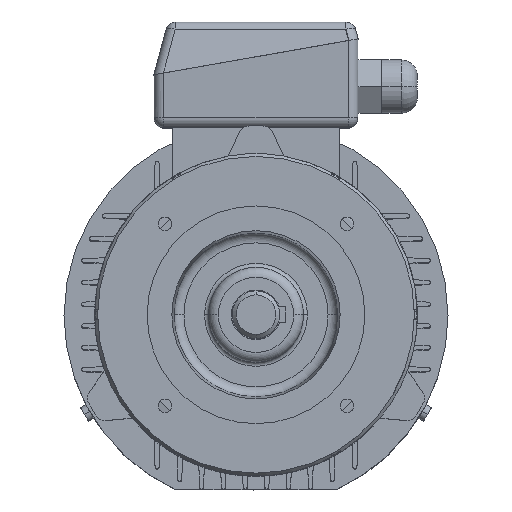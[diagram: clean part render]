
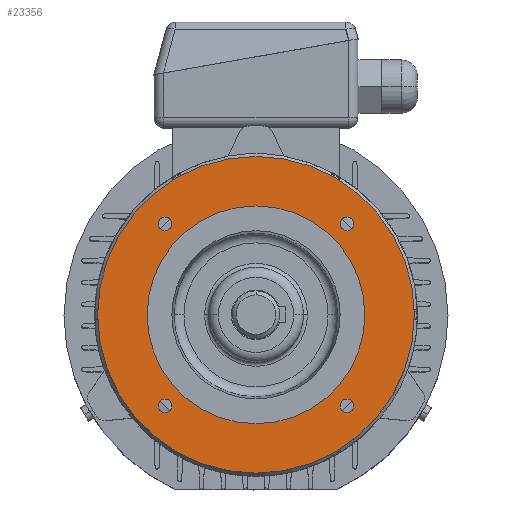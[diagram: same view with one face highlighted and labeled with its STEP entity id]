
A CAD part, top view. The second image highlights one B-rep face of the part: STEP entity #23356.
In plain terms, the highlighted planar face has unit normal (0, 0, 1).
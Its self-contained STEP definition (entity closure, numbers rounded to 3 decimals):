
#16417 = EDGE_CURVE ( 'NONE', #7432, #12865, #10684, .T. ) ;
#16656 = EDGE_CURVE ( 'NONE', #16343, #13916, #10831, .T. ) ;
#16678 = FACE_BOUND ( 'NONE', #23046, .T. ) ;
#16679 = FACE_OUTER_BOUND ( 'NONE', #20979, .T. ) ;
#16680 = FACE_BOUND ( 'NONE', #18276, .T. ) ;
#16681 = FACE_BOUND ( 'NONE', #3656, .T. ) ;
#16682 = FACE_BOUND ( 'NONE', #1614, .T. ) ;
#16683 = FACE_BOUND ( 'NONE', #24841, .T. ) ;
#16684 = PLANE ( 'NONE',  #16685 ) ;
#16685 = AXIS2_PLACEMENT_3D ( 'NONE', #16686, #16687, #16688 ) ;
#16686 = CARTESIAN_POINT ( 'NONE',  ( -80., 0., 40. ) ) ;
#16687 = DIRECTION ( 'NONE',  ( 0., 0., 1. ) ) ;
#16688 = DIRECTION ( 'NONE',  ( 1., 0., 0. ) ) ;
#335 = VERTEX_POINT ( 'NONE', #17013 ) ;
#503 = EDGE_CURVE ( 'NONE', #5489, #13639, #17511, .T. ) ;
#17013 = CARTESIAN_POINT ( 'NONE',  ( -49.362, 45.962, 40. ) ) ;
#658 = CARTESIAN_POINT ( 'NONE',  ( -55., 0., 40. ) ) ;
#725 = CIRCLE ( 'NONE', #726, 55. ) ;
#726 = AXIS2_PLACEMENT_3D ( 'NONE', #727, #728, #729 ) ;
#727 = CARTESIAN_POINT ( 'NONE',  ( 0., 0., 40. ) ) ;
#728 = DIRECTION ( 'NONE',  ( 0., 0., -1. ) ) ;
#729 = DIRECTION ( 'NONE',  ( -1., 0., 0. ) ) ;
#17192 = ORIENTED_EDGE ( 'NONE', *, *, #16417, .F. ) ;
#818 = CIRCLE ( 'NONE', #819, 3.4 ) ;
#819 = AXIS2_PLACEMENT_3D ( 'NONE', #820, #826, #827 ) ;
#820 = CARTESIAN_POINT ( 'NONE',  ( 45.962, 45.962, 40. ) ) ;
#826 = DIRECTION ( 'NONE',  ( 0., 0., 1. ) ) ;
#827 = DIRECTION ( 'NONE',  ( 1., 0., 0. ) ) ;
#17218 = CIRCLE ( 'NONE', #17219, 3.4 ) ;
#17219 = AXIS2_PLACEMENT_3D ( 'NONE', #17220, #17221, #17222 ) ;
#17220 = CARTESIAN_POINT ( 'NONE',  ( -45.962, 45.962, 40. ) ) ;
#17221 = DIRECTION ( 'NONE',  ( 0., 0., 1. ) ) ;
#17222 = DIRECTION ( 'NONE',  ( 1., 0., 0. ) ) ;
#964 = ORIENTED_EDGE ( 'NONE', *, *, #503, .F. ) ;
#17511 = CIRCLE ( 'NONE', #17512, 3.4 ) ;
#17512 = AXIS2_PLACEMENT_3D ( 'NONE', #17513, #17514, #17515 ) ;
#17513 = CARTESIAN_POINT ( 'NONE',  ( 45.962, 45.962, 40. ) ) ;
#17514 = DIRECTION ( 'NONE',  ( 0., 0., 1. ) ) ;
#17515 = DIRECTION ( 'NONE',  ( 1., 0., 0. ) ) ;
#1243 = CARTESIAN_POINT ( 'NONE',  ( 42.562, -45.962, 40. ) ) ;
#1614 = EDGE_LOOP ( 'NONE', ( #964, #25137 ) ) ;
#18233 = VERTEX_POINT ( 'NONE', #11852 ) ;
#18276 = EDGE_LOOP ( 'NONE', ( #17192, #3872 ) ) ;
#1929 = ORIENTED_EDGE ( 'NONE', *, *, #21742, .F. ) ;
#1961 = CARTESIAN_POINT ( 'NONE',  ( -42.562, -45.962, 40. ) ) ;
#2005 = CIRCLE ( 'NONE', #2006, 3.4 ) ;
#2006 = AXIS2_PLACEMENT_3D ( 'NONE', #2007, #2008, #2015 ) ;
#2007 = CARTESIAN_POINT ( 'NONE',  ( -45.962, -45.962, 40. ) ) ;
#2008 = DIRECTION ( 'NONE',  ( 0., 0., 1. ) ) ;
#2015 = DIRECTION ( 'NONE',  ( 1., 0., 0. ) ) ;
#18787 = ORIENTED_EDGE ( 'NONE', *, *, #11641, .F. ) ;
#2564 = EDGE_CURVE ( 'NONE', #18233, #6863, #21205, .T. ) ;
#3023 = ORIENTED_EDGE ( 'NONE', *, *, #2564, .F. ) ;
#19892 = ORIENTED_EDGE ( 'NONE', *, *, #16656, .F. ) ;
#3656 = EDGE_LOOP ( 'NONE', ( #3023, #1929 ) ) ;
#3872 = ORIENTED_EDGE ( 'NONE', *, *, #7500, .F. ) ;
#20979 = EDGE_LOOP ( 'NONE', ( #19892, #18787 ) ) ;
#21205 = CIRCLE ( 'NONE', #21206, 3.4 ) ;
#21206 = AXIS2_PLACEMENT_3D ( 'NONE', #21207, #21208, #21209 ) ;
#21207 = CARTESIAN_POINT ( 'NONE',  ( 45.962, -45.962, 40. ) ) ;
#21208 = DIRECTION ( 'NONE',  ( 0., 0., 1. ) ) ;
#21209 = DIRECTION ( 'NONE',  ( 1., 0., 0. ) ) ;
#21292 = EDGE_CURVE ( 'NONE', #16115, #6316, #13818, .T. ) ;
#21741 = ORIENTED_EDGE ( 'NONE', *, *, #21292, .T. ) ;
#21742 = EDGE_CURVE ( 'NONE', #6863, #18233, #14384, .T. ) ;
#5489 = VERTEX_POINT ( 'NONE', #24850 ) ;
#21880 = EDGE_CURVE ( 'NONE', #335, #15553, #14737, .T. ) ;
#22408 = ORIENTED_EDGE ( 'NONE', *, *, #6385, .T. ) ;
#6169 = CIRCLE ( 'NONE', #6170, 80. ) ;
#6170 = AXIS2_PLACEMENT_3D ( 'NONE', #6171, #6172, #6173 ) ;
#6171 = CARTESIAN_POINT ( 'NONE',  ( 0., 0., 40. ) ) ;
#6172 = DIRECTION ( 'NONE',  ( 0., 0., -1. ) ) ;
#6173 = DIRECTION ( 'NONE',  ( -1., 0., 0. ) ) ;
#6316 = VERTEX_POINT ( 'NONE', #658 ) ;
#6385 = EDGE_CURVE ( 'NONE', #6316, #16115, #725, .T. ) ;
#6539 = EDGE_CURVE ( 'NONE', #13639, #5489, #818, .T. ) ;
#23046 = EDGE_LOOP ( 'NONE', ( #22408, #21741 ) ) ;
#6863 = VERTEX_POINT ( 'NONE', #1243 ) ;
#23356 = ADVANCED_FACE ( 'NONE', ( #16678, #16679, #16680, #16681, #16682, #16683 ), #16684, .T. ) ;
#23711 = EDGE_CURVE ( 'NONE', #15553, #335, #17218, .T. ) ;
#7339 = CARTESIAN_POINT ( 'NONE',  ( -49.362, -45.962, 40. ) ) ;
#7432 = VERTEX_POINT ( 'NONE', #1961 ) ;
#7500 = EDGE_CURVE ( 'NONE', #12865, #7432, #2005, .T. ) ;
#24199 = ORIENTED_EDGE ( 'NONE', *, *, #23711, .F. ) ;
#8230 = CARTESIAN_POINT ( 'NONE',  ( 42.562, 45.962, 40. ) ) ;
#24841 = EDGE_LOOP ( 'NONE', ( #24199, #9298 ) ) ;
#24850 = CARTESIAN_POINT ( 'NONE',  ( 49.362, 45.962, 40. ) ) ;
#8507 = CARTESIAN_POINT ( 'NONE',  ( 80., 0., 40. ) ) ;
#25137 = ORIENTED_EDGE ( 'NONE', *, *, #6539, .F. ) ;
#9298 = ORIENTED_EDGE ( 'NONE', *, *, #21880, .F. ) ;
#10068 = CARTESIAN_POINT ( 'NONE',  ( -42.562, 45.962, 40. ) ) ;
#10413 = CARTESIAN_POINT ( 'NONE',  ( 55., 0., 40. ) ) ;
#10506 = CARTESIAN_POINT ( 'NONE',  ( -80., 0., 40. ) ) ;
#10684 = CIRCLE ( 'NONE', #10685, 3.4 ) ;
#10685 = AXIS2_PLACEMENT_3D ( 'NONE', #10686, #10687, #10688 ) ;
#10686 = CARTESIAN_POINT ( 'NONE',  ( -45.962, -45.962, 40. ) ) ;
#10687 = DIRECTION ( 'NONE',  ( 0., 0., 1. ) ) ;
#10688 = DIRECTION ( 'NONE',  ( 1., 0., 0. ) ) ;
#10831 = CIRCLE ( 'NONE', #10845, 80. ) ;
#10845 = AXIS2_PLACEMENT_3D ( 'NONE', #10846, #10847, #10848 ) ;
#10846 = CARTESIAN_POINT ( 'NONE',  ( 0., 0., 40. ) ) ;
#10847 = DIRECTION ( 'NONE',  ( 0., 0., -1. ) ) ;
#10848 = DIRECTION ( 'NONE',  ( -1., 0., 0. ) ) ;
#11641 = EDGE_CURVE ( 'NONE', #13916, #16343, #6169, .T. ) ;
#11852 = CARTESIAN_POINT ( 'NONE',  ( 49.362, -45.962, 40. ) ) ;
#12865 = VERTEX_POINT ( 'NONE', #7339 ) ;
#13639 = VERTEX_POINT ( 'NONE', #8230 ) ;
#13818 = CIRCLE ( 'NONE', #13819, 55. ) ;
#13819 = AXIS2_PLACEMENT_3D ( 'NONE', #13820, #13821, #13822 ) ;
#13820 = CARTESIAN_POINT ( 'NONE',  ( 0., 0., 40. ) ) ;
#13821 = DIRECTION ( 'NONE',  ( 0., 0., -1. ) ) ;
#13822 = DIRECTION ( 'NONE',  ( -1., 0., 0. ) ) ;
#13916 = VERTEX_POINT ( 'NONE', #8507 ) ;
#14384 = CIRCLE ( 'NONE', #14391, 3.4 ) ;
#14391 = AXIS2_PLACEMENT_3D ( 'NONE', #14392, #14393, #14394 ) ;
#14392 = CARTESIAN_POINT ( 'NONE',  ( 45.962, -45.962, 40. ) ) ;
#14393 = DIRECTION ( 'NONE',  ( 0., 0., 1. ) ) ;
#14394 = DIRECTION ( 'NONE',  ( 1., 0., 0. ) ) ;
#14737 = CIRCLE ( 'NONE', #14738, 3.4 ) ;
#14738 = AXIS2_PLACEMENT_3D ( 'NONE', #14739, #14740, #14741 ) ;
#14739 = CARTESIAN_POINT ( 'NONE',  ( -45.962, 45.962, 40. ) ) ;
#14740 = DIRECTION ( 'NONE',  ( 0., 0., 1. ) ) ;
#14741 = DIRECTION ( 'NONE',  ( 1., 0., 0. ) ) ;
#15553 = VERTEX_POINT ( 'NONE', #10068 ) ;
#16115 = VERTEX_POINT ( 'NONE', #10413 ) ;
#16343 = VERTEX_POINT ( 'NONE', #10506 ) ;
